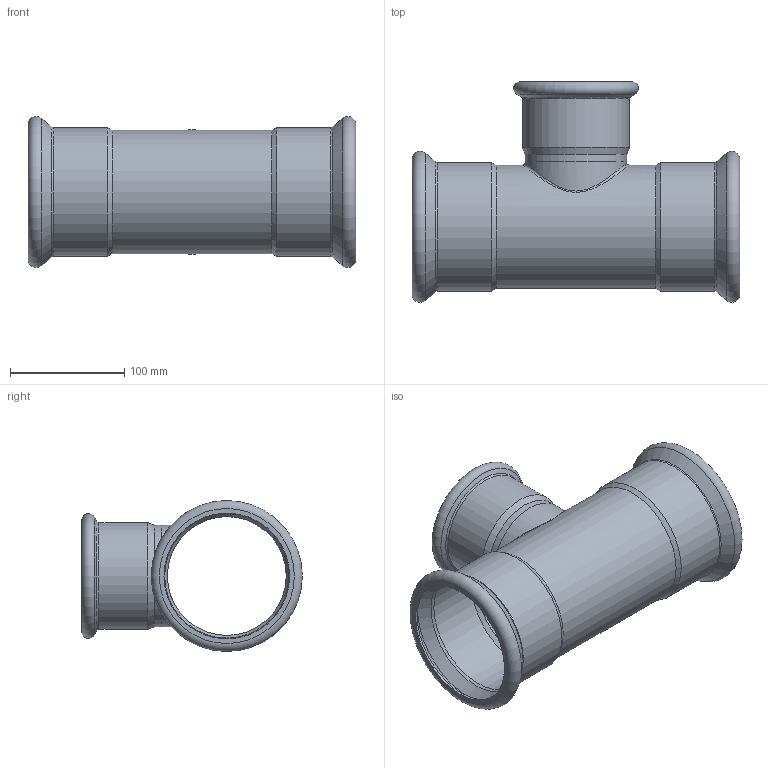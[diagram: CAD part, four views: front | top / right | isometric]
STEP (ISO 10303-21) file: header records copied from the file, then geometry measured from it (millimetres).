
FILE_DESCRIPTION((''),'2;1');
FILE_NAME('G:\Nirosan-Schmiedefeld\Technics\CAD\Bauteile VA\108\6913010889108(2).stp','2009-05-08T09:43:06',('herberg'),(''),'Autodesk Inventor 2009','Autodesk Inventor 2009','');
FILE_SCHEMA(('AUTOMOTIVE_DESIGN { 1 0 10303 214 1 1 1 1 }'));
Length unit declared in the file: millimetre
Products named in the file (3): 6913010889108(2); LM_6913010889108(0); HM_6924389(1)
Assembly tree (2 placements, depth 2):
  6913010889108(2)
    LM_6913010889108(0)
    HM_6924389(1)
Bounding box: 287 x 193.1 x 132.2 mm (x, y, z)
Volume: 255024.3 mm3; surface area: 258011.1 mm2
Topology: 2 solids, 2 shells, 49 faces, 99 edges, 57 vertices
Faces by surface type: cylinder 15, cone 12, bspline 8, plane 8, torus 6
Full cylindrical faces by diameter (mm): 84.9 x2, 88.9 x2, 89.5 x1, 91 x1, 93.5 x1, 104 x1, 108 x1, 108.7 x2, 110 x2, 112.7 x2
Entity records: 3537 total; most frequent: CARTESIAN_POINT 2631, DIRECTION 186, ORIENTED_EDGE 104, EDGE_LOOP 98, AXIS2_PLACEMENT_3D 93, EDGE_CURVE 52, VERTEX_POINT 50, FACE_OUTER_BOUND 49
